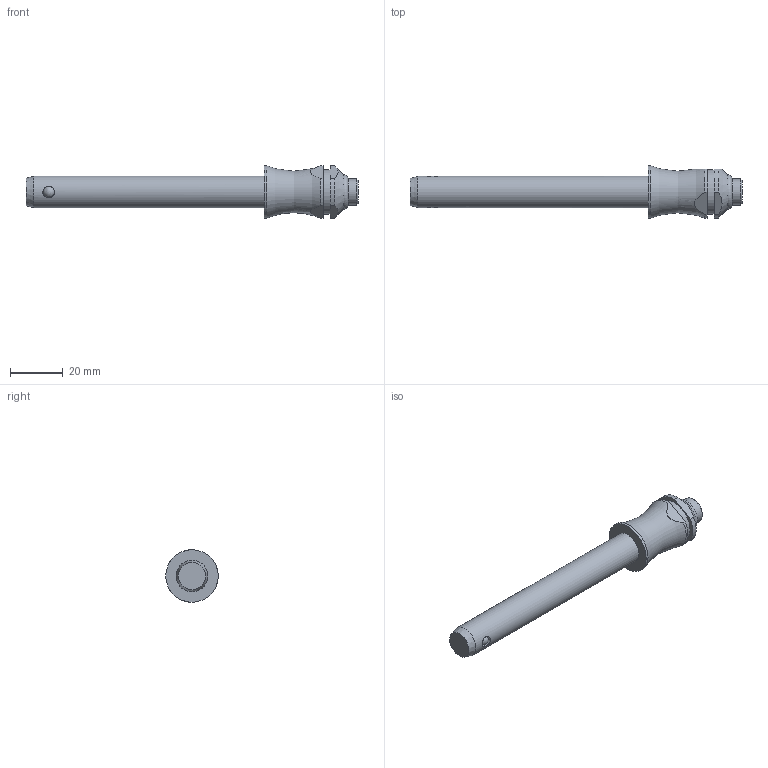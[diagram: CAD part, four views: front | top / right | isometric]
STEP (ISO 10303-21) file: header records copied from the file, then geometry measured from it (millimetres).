
FILE_DESCRIPTION( ( 'STEP AP203' ), '1' );
FILE_NAME( 'C:/Temp/Ganter_Step_05_03_2020/data/3_1/gn113_3/Stainless Steel-Ball lock pin GN 113.3-12-80 (activated).stp', '2020-03-12T08:18:47', ( 'License CC BY-ND 4.0' ), ( 'CADENAS' ), ' ', 'PARTsolutions', ' ' );
FILE_SCHEMA( ( 'CONFIG_CONTROL_DESIGN' ) );
Length unit declared in the file: millimetre
Products named in the file (1): _Stainless Steel-Ball lock pin GN 113.3-12-80 (activated)
Bounding box: 126.35 x 20 x 20 mm (x, y, z)
Volume: 17851.9 mm3; surface area: 5932.3 mm2
Topology: 1 solids, 1 shells, 30 faces, 72 edges, 45 vertices
Faces by surface type: cylinder 12, plane 11, cone 3, torus 2, sphere 2
Full cylindrical faces by diameter (mm): 4.4 x2, 10 x1, 12 x1, 17 x1, 20 x1
Entity records: 1010 total; most frequent: CARTESIAN_POINT 360, DIRECTION 130, ORIENTED_EDGE 102, AXIS2_PLACEMENT_3D 56, EDGE_CURVE 51, EDGE_LOOP 46, VERTEX_POINT 40, FACE_OUTER_BOUND 38
